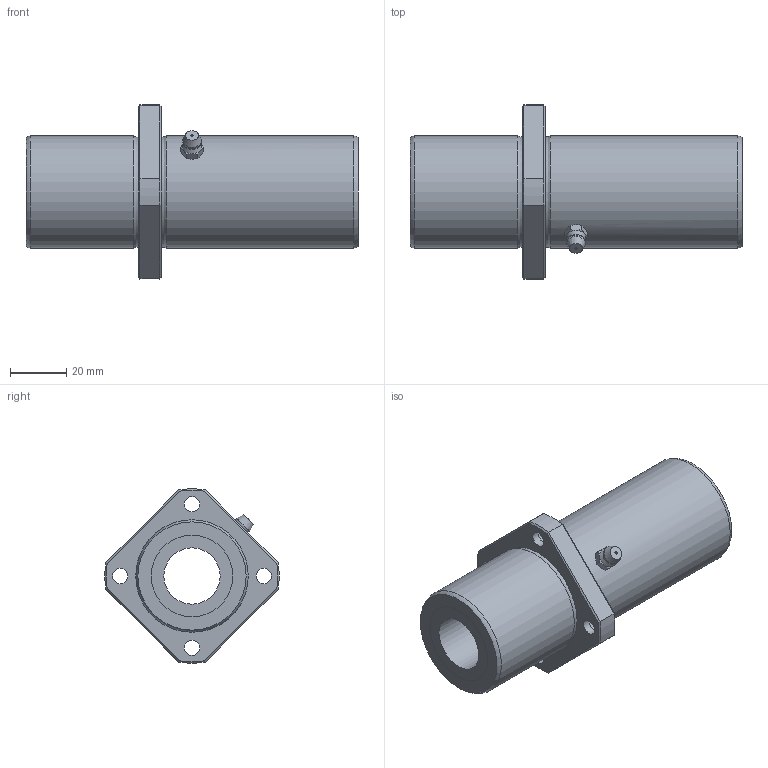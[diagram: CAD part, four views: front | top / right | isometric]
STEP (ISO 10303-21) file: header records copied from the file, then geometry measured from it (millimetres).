
FILE_DESCRIPTION((''),'2;1');
FILE_NAME('D:\製品 (図面)\カタログ用3D\リニアベアリング関連\STEP形式\LFLKC\LFLKC20.stp','2010-06-04T09:14:17',('Tsuchiya'),(''),'Autodesk Inventor 10','Autodesk Inventor 10','');
FILE_SCHEMA(('AUTOMOTIVE_DESIGN { 1 0 10303 214 1 1 1 1 }'));
Length unit declared in the file: millimetre
Products named in the file (1): LFLKC20
Bounding box: 118 x 61.92 x 61.92 mm (x, y, z)
Volume: 118787.6 mm3; surface area: 27593.3 mm2
Topology: 1 solids, 1 shells, 80 faces, 166 edges, 98 vertices
Faces by surface type: plane 28, cone 21, bspline 16, cylinder 11, sphere 2, torus 2
Full cylindrical faces by diameter (mm): 20 x1, 29 x2, 40 x2
Entity records: 2413 total; most frequent: CARTESIAN_POINT 879, DIRECTION 300, ORIENTED_EDGE 288, EDGE_CURVE 144, AXIS2_PLACEMENT_3D 133, EDGE_LOOP 122, VERTEX_POINT 96, FACE_OUTER_BOUND 80
